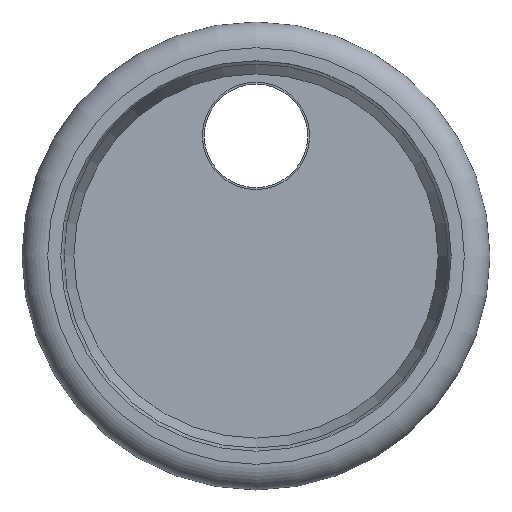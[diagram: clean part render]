
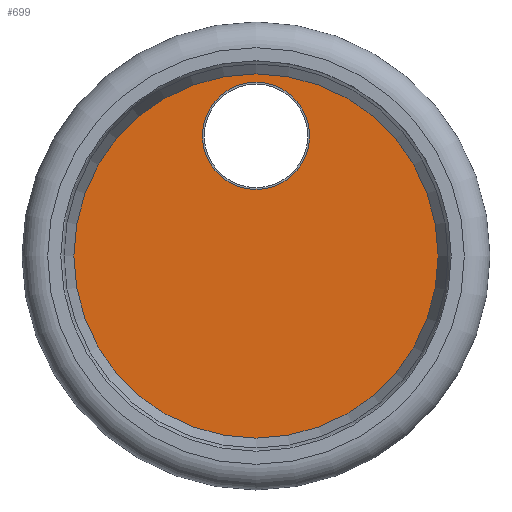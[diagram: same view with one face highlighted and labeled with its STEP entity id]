
A CAD part, left-side view. The second image highlights one B-rep face of the part: STEP entity #699.
In plain terms, the highlighted planar face has unit normal (-1, 0, 0) as drawn and (0, 0, 1) by its records, which use the part's own axes.
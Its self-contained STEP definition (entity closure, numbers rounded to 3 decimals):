
#648=CARTESIAN_POINT('',(12.5,28.,2.0));
#649=VERTEX_POINT('',#648);
#650=CARTESIAN_POINT('',(0.0,28.,2.));
#651=DIRECTION('',(0.0,0.0,-1.0));
#652=DIRECTION('',(1.0,0.0,0.0));
#653=AXIS2_PLACEMENT_3D('',#650,#651,#652);
#654=CIRCLE('',#653,12.5);
#655=EDGE_CURVE('',#649,#649,#654,.T.);
#665=CARTESIAN_POINT('',(44.0,0.,2.0));
#666=VERTEX_POINT('',#665);
#667=CARTESIAN_POINT('',(0.0,0.0,2.0));
#668=DIRECTION('',(0.0,0.0,-1.0));
#669=DIRECTION('',(-1.0,0.0,0.0));
#670=AXIS2_PLACEMENT_3D('',#667,#668,#669);
#671=CIRCLE('',#670,44.0);
#672=EDGE_CURVE('',#666,#666,#671,.T.);
#688=CARTESIAN_POINT('',(0.0,0.0,2.0));
#689=DIRECTION('',(0.0,0.0,-1.0));
#690=DIRECTION('',(-1.0,0.0,0.0));
#691=AXIS2_PLACEMENT_3D('',#688,#689,#690);
#692=PLANE('',#691);
#693=ORIENTED_EDGE('',*,*,#672,.F.);
#694=EDGE_LOOP('',(#693));
#695=FACE_OUTER_BOUND('',#694,.T.);
#696=ORIENTED_EDGE('',*,*,#655,.T.);
#697=EDGE_LOOP('',(#696));
#698=FACE_BOUND('',#697,.T.);
#699=ADVANCED_FACE('',(#695,#698),#692,.F.);
